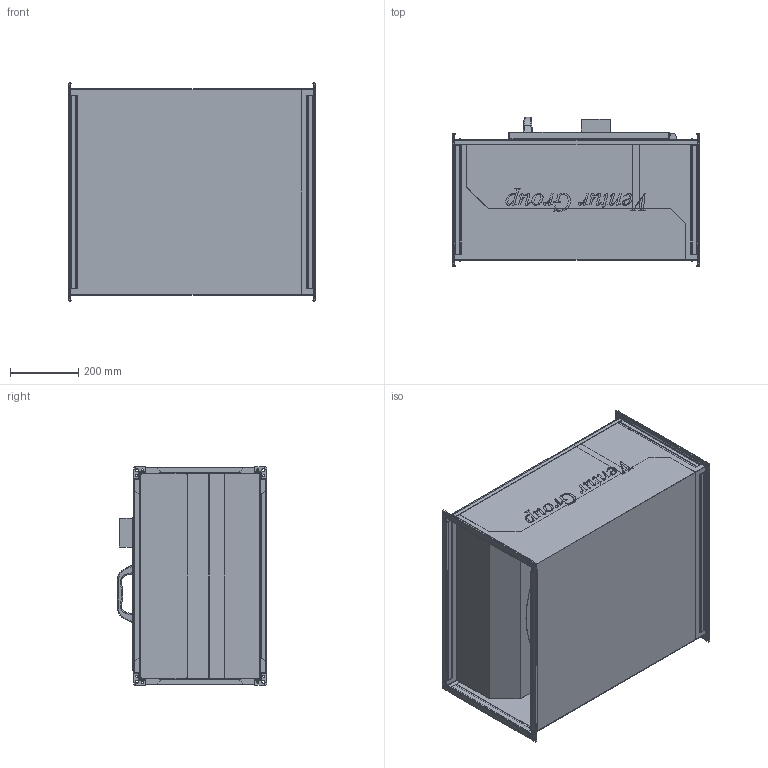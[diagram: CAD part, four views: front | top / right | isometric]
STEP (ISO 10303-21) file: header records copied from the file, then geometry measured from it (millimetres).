
FILE_DESCRIPTION(/* description */ (''),/* implementation_level */ '2;1');
FILE_NAME(/* name */ 'C:\Users\M.Janczarek\Documents\Modele uproszczone\IBF\IBF4_355T 41010102\IBF4_355T 41010102\IBF4_355T 41010102.stp',/* time_stamp */ '2018-03-23T11:37:36+01:00',/* author */ ('M.Janczarek'),/* organization */ (''),/* preprocessor_version */ 'ST-DEVELOPER v16.5',/* originating_system */ 'Autodesk Inventor 2017',/* authorisation */ '');
FILE_SCHEMA (('AUTOMOTIVE_DESIGN { 1 0 10303 214 3 1 1 }'));
Products named in the file (1): IBF4_355T 41010102
Bounding box: 723.6 x 437.49 x 639.97 mm (x, y, z)
Volume: 22234571.5 mm3; surface area: 5541311.7 mm2
Topology: 1 solids, 1 shells, 1740 faces, 5017 edges, 3227 vertices
Faces by surface type: plane 842, cylinder 472, bspline 318, torus 64, cone 28, sphere 16
Full cylindrical faces by diameter (mm): 6 x16, 9 x8, 280 x1, 365.8 x1
Entity records: 64695 total; most frequent: CARTESIAN_POINT 18870, ORIENTED_EDGE 9966, DIRECTION 8336, EDGE_CURVE 4983, VERTEX_POINT 3235, LINE 3186, VECTOR 3186, AXIS2_PLACEMENT_3D 2575
